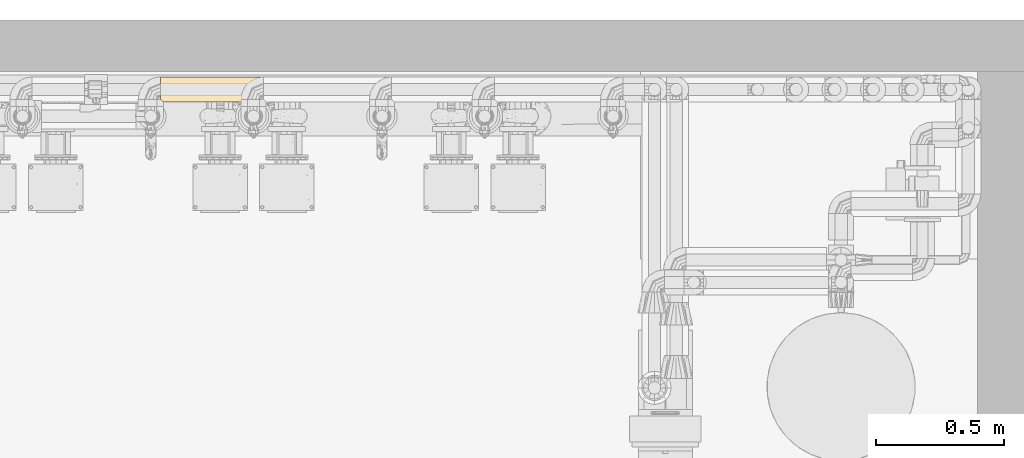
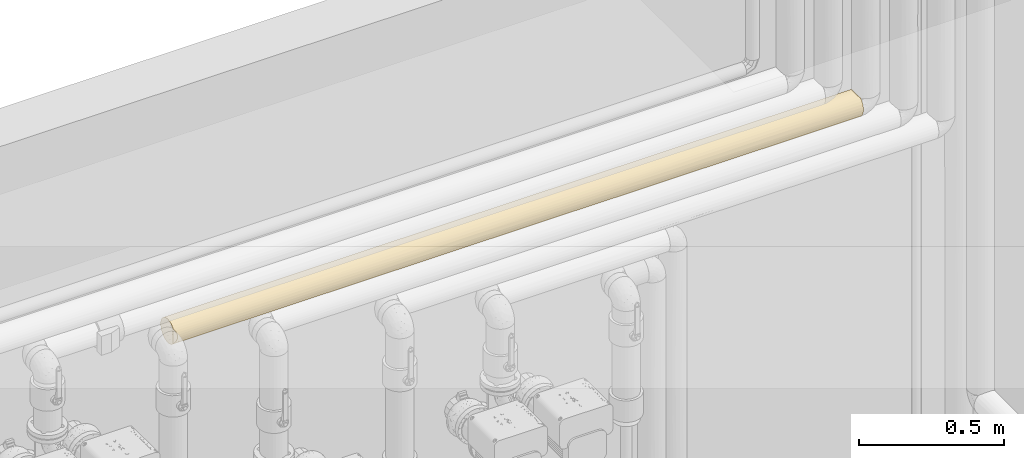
# One storey, part 5 of 94: 1 covering.
"""IFC2X3 building model written with IfcOpenShell, lengths in millimetres."""

from ifc_helpers import new_model, entity, si_unit, converted_unit, derived_unit, direction, frame, origin, place, context, subcontext, project, spatial, faceted_brep, material, element, save


model = new_model("IFC2X3")

# Units and contexts
model_context = context("Model", 3, precision=0.01, world=origin(), true_north=direction((6.123031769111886e-17, 1.0)))
body_context = subcontext(model_context, "Body", "Model", "MODEL_VIEW")
ifc_project = project(units=[si_unit("LENGTHUNIT", "METRE", prefix="MILLI"), si_unit("AREAUNIT", "SQUARE_METRE"), si_unit("VOLUMEUNIT", "CUBIC_METRE"), converted_unit("PLANEANGLEUNIT", "DEGREE", entity("IfcRatioMeasure", 0.017453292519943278), si_unit("PLANEANGLEUNIT", "RADIAN"), dimensions=[0, 0, 0, 0, 0, 0, 0]), si_unit("MASSUNIT", "GRAM", prefix="KILO"), derived_unit("MASSDENSITYUNIT", [(si_unit("MASSUNIT", "GRAM", prefix="KILO"), 1), (si_unit("LENGTHUNIT", "METRE"), -3)]), derived_unit("IONCONCENTRATIONUNIT", [(si_unit("MASSUNIT", "GRAM", prefix="KILO"), 1), (si_unit("LENGTHUNIT", "METRE"), -3)]), derived_unit("MOMENTOFINERTIAUNIT", [(si_unit("LENGTHUNIT", "METRE"), 4)]), si_unit("TIMEUNIT", "SECOND"), si_unit("FREQUENCYUNIT", "HERTZ"), si_unit("THERMODYNAMICTEMPERATUREUNIT", "DEGREE_CELSIUS"), derived_unit("THERMALTRANSMITTANCEUNIT", [(si_unit("MASSUNIT", "GRAM", prefix="KILO"), 1), (si_unit("THERMODYNAMICTEMPERATUREUNIT", "KELVIN"), -1), (si_unit("TIMEUNIT", "SECOND"), -3)]), derived_unit("THERMALCONDUCTANCEUNIT", [(si_unit("MASSUNIT", "GRAM", prefix="KILO"), 1), (si_unit("THERMODYNAMICTEMPERATUREUNIT", "KELVIN"), -1), (si_unit("TIMEUNIT", "SECOND"), -3), (si_unit("LENGTHUNIT", "METRE"), 1)]), derived_unit("VOLUMETRICFLOWRATEUNIT", [(si_unit("LENGTHUNIT", "METRE"), 3), (si_unit("TIMEUNIT", "SECOND"), -1)]), derived_unit("MASSFLOWRATEUNIT", [(si_unit("MASSUNIT", "GRAM", prefix="KILO"), 1), (si_unit("TIMEUNIT", "SECOND"), -1)]), derived_unit("ROTATIONALFREQUENCYUNIT", [(si_unit("TIMEUNIT", "SECOND"), -1)]), si_unit("ELECTRICCURRENTUNIT", "AMPERE"), si_unit("ELECTRICVOLTAGEUNIT", "VOLT"), si_unit("POWERUNIT", "WATT"), si_unit("FORCEUNIT", "NEWTON", prefix="KILO"), si_unit("ILLUMINANCEUNIT", "LUX"), si_unit("LUMINOUSFLUXUNIT", "LUMEN"), si_unit("LUMINOUSINTENSITYUNIT", "CANDELA"), derived_unit("USERDEFINED", [(si_unit("MASSUNIT", "GRAM", prefix="KILO"), -1), (si_unit("LENGTHUNIT", "METRE"), -2), (si_unit("TIMEUNIT", "SECOND"), 3), (si_unit("LUMINOUSFLUXUNIT", "LUMEN"), 1)]), derived_unit("USERDEFINED", [(si_unit("MASSUNIT", "GRAM", prefix="KILO"), 1), (si_unit("TIMEUNIT", "SECOND"), -3), (si_unit("LENGTHUNIT", "METRE"), 3), (si_unit("ELECTRICCURRENTUNIT", "AMPERE"), -2)]), derived_unit("SOUNDPOWERUNIT", [(si_unit("MASSUNIT", "GRAM", prefix="KILO"), 1), (si_unit("TIMEUNIT", "SECOND"), -3), (si_unit("LENGTHUNIT", "METRE"), 2)]), derived_unit("SOUNDPRESSUREUNIT", [(si_unit("MASSUNIT", "GRAM", prefix="KILO"), 1), (si_unit("LENGTHUNIT", "METRE"), -1), (si_unit("TIMEUNIT", "SECOND"), -2)]), derived_unit("LINEARVELOCITYUNIT", [(si_unit("LENGTHUNIT", "METRE"), 1), (si_unit("TIMEUNIT", "SECOND"), -1)]), si_unit("PRESSUREUNIT", "PASCAL"), derived_unit("USERDEFINED", [(si_unit("MASSUNIT", "GRAM", prefix="KILO"), 1), (si_unit("LENGTHUNIT", "METRE"), -2), (si_unit("TIMEUNIT", "SECOND"), -2)]), derived_unit("LINEARFORCEUNIT", [(si_unit("MASSUNIT", "GRAM", prefix="KILO"), 1), (si_unit("TIMEUNIT", "SECOND"), -2)]), derived_unit("PLANARFORCEUNIT", [(si_unit("MASSUNIT", "GRAM", prefix="KILO"), 1), (si_unit("LENGTHUNIT", "METRE"), -1), (si_unit("TIMEUNIT", "SECOND"), -2)]), derived_unit("SPECIFICHEATCAPACITYUNIT", [(si_unit("THERMODYNAMICTEMPERATUREUNIT", "KELVIN"), -1), (si_unit("LENGTHUNIT", "METRE"), 2), (si_unit("TIMEUNIT", "SECOND"), -2)]), derived_unit("HEATINGVALUEUNIT", [(si_unit("LENGTHUNIT", "METRE"), 2), (si_unit("TIMEUNIT", "SECOND"), -2)]), derived_unit("VAPORPERMEABILITYUNIT", [(si_unit("LENGTHUNIT", "METRE"), -1), (si_unit("TIMEUNIT", "SECOND"), 1)]), derived_unit("DYNAMICVISCOSITYUNIT", [(si_unit("MASSUNIT", "GRAM", prefix="KILO"), 1), (si_unit("TIMEUNIT", "SECOND"), -1), (si_unit("LENGTHUNIT", "METRE"), -1)]), derived_unit("THERMALEXPANSIONCOEFFICIENTUNIT", [(si_unit("THERMODYNAMICTEMPERATUREUNIT", "KELVIN"), -1)]), derived_unit("MODULUSOFELASTICITYUNIT", [(si_unit("MASSUNIT", "GRAM", prefix="KILO"), 1), (si_unit("LENGTHUNIT", "METRE"), -1), (si_unit("TIMEUNIT", "SECOND"), -2)]), derived_unit("ISOTHERMALMOISTURECAPACITYUNIT", [(si_unit("LENGTHUNIT", "METRE"), 3), (si_unit("MASSUNIT", "GRAM", prefix="KILO"), -1)]), derived_unit("MOISTUREDIFFUSIVITYUNIT", [(si_unit("TIMEUNIT", "SECOND"), -1), (si_unit("LENGTHUNIT", "METRE"), 2)])], contexts=[model_context])

# Site, building, storey
site_placement = place(None, origin())
site = spatial("IfcSite", under=ifc_project, at=site_placement, Name="Default", CompositionType="ELEMENT")
building_placement = place(site_placement, origin())
building = spatial("IfcBuilding", under=site, at=building_placement, CompositionType="ELEMENT")
storey_placement = place(building_placement, origin())
storey = spatial("IfcBuildingStorey", under=building, at=storey_placement, Name="Niveau 0", CompositionType="ELEMENT", Elevation=0.0)

# Covering
ifc_material = material(Name="Isolation - Laine minérale")
covering_placement = place(storey_placement, frame((-8935.741137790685, 9976.120352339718, 2700.725272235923)))
element("IfcCovering", 1, at=covering_placement, inside=storey, material=ifc_material, Name="Isolation des canalisations:Laine minérale", ObjectType="Isolation des canalisations:Laine minérale", PredefinedType="INSULATION", context=body_context, shape_type="Brep", body=[
    faceted_brep([(1.5952722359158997, 20.474956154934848, -89.43799982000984), (1.5952722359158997, 12.7252722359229, -81.86619226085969), (1.5952722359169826, 12.7252722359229, -19.58435221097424), (1.5952722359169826, 20.474956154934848, -12.012544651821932), (1.5952722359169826, 29.696487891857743, -6.32316497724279), (1.5952722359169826, 39.9404983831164, -2.7935963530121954), (1.5952722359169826, 50.72527223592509, -1.5952722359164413), (1.5952722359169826, 63.44105192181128, -3.269336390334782), (1.5952722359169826, 75.29027223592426, -8.17744414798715), (1.5952722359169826, 85.46542839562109, -15.985116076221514), (1.5952722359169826, 93.27310032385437, -26.160272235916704), (1.5952722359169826, 98.18120808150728, -38.00949255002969), (1.5952722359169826, 99.85527223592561, -50.72527223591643), (1.5952722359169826, 98.18120808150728, -63.44105192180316), (1.5952722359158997, 93.27310032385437, -75.29027223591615), (1.5952722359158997, 85.46542839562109, -85.46542839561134), (1.5952722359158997, 75.29027223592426, -93.2731003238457), (1.5952722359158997, 63.44105192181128, -98.18120808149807), (1.5952722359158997, 50.72527223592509, -99.85527223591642), (1.5952722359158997, 39.9404983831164, -98.65694811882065), (1.5952722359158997, 29.696487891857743, -95.12737949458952), (2738.568824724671, 2.7935963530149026, -39.94049838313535), (2738.568824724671, 1.5952722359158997, -50.725272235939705), (2738.568824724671, 3.26933639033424, -63.44105192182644), (2738.568824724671, 8.17744414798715, -75.29027223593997), (2738.568824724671, 15.98511607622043, -85.46542839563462), (2738.568824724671, 26.160272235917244, -93.27310032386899), (2738.568824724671, 38.00949255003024, -98.18120808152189), (2738.568824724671, 50.72527223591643, -99.8552722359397), (2738.568824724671, 63.44105192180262, -98.18120808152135), (2738.568824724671, 75.29027223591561, -93.27310032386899), (2738.568824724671, 85.46542839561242, -85.46542839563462), (2738.568824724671, 93.2731003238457, -75.29027223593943), (2738.568824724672, 98.18120808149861, -63.44105192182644), (2738.568824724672, 99.85527223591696, -50.725272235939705), (2738.568824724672, 98.65694811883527, -39.94049838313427), (2738.568824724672, 95.12737949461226, -29.696487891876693), (2738.568824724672, 89.43799982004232, -20.474956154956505), (2738.568824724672, 81.86619226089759, -12.725272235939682), (2738.568824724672, 19.584352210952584, -12.725272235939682), (2738.568824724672, 12.012544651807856, -20.474956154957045), (2738.568824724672, 6.3231649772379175, -29.69648789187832), (2449.2185860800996, 96.11547365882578, -69.52650929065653), (2448.2289001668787, 99.1303001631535, -59.13420625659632), (272.6511420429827, 96.115473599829, -69.52650943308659), (2337.232544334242, 89.70272181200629, -80.63372128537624), (2103.87532670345, 96.11547364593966, -69.52650932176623), (2254.8123188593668, 69.52650919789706, -96.11547369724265), (2157.153779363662, 98.94398934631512, -60.143988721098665), (2249.0821668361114, 99.85527223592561, -50.72527223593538), (583.0103230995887, 60.14398862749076, -98.9439893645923), (491.0817534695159, 50.72527223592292, -99.85527223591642), (291.9351992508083, 59.13420623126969, -99.1303001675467), (283.4446282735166, 99.05124511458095, -59.577235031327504), (584.6749647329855, 99.02687589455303, -59.709257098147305), (937.0309494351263, 62.91400262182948, -98.31930286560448), (980.5686006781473, 50.72527223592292, -99.85527223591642), (1491.9934035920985, 97.7460238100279, -64.96626312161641), (1320.0954497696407, 99.85527223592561, -50.7252722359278), (1370.0692381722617, 99.85527223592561, -50.7252722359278), (1759.5955089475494, 99.85527223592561, -50.725272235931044), (1941.969921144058, 90.03447239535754, -80.19633741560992), (335.08870955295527, 89.70272176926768, -80.63372134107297), (402.93155628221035, 80.63372117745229, -89.7027218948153), (2102.905535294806, 60.360580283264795, -98.90117636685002), (2422.553537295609, 60.25221646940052, -98.92272272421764), (1315.6507202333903, 70.34281176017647, -95.76868510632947), (1241.8953800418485, 60.43410755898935, -98.88641234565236), (290.9455130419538, 69.52650923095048, -96.11547368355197), (441.09533141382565, 99.85527223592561, -50.725272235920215), (1462.6208848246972, 83.01175494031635, -87.75687947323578), (1036.2323884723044, 79.66595093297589, -90.42658224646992), (2405.07539044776, 80.6337212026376, -89.702721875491), (636.2887754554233, 69.52650920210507, -96.11547369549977), (602.8173026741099, 96.11547354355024, -69.52650956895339), (865.1199322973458, 97.98339745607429, -64.1575654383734), (729.1335266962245, 86.99287982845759, -83.86765506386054), (716.2654039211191, 78.79427208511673, -91.04757558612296), (1413.5613877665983, 89.68738741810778, -80.65369485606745), (1681.2640510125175, 87.48485854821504, -83.32112648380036), (2151.474573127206, 77.36084045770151, -92.00848196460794), (2249.082343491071, 50.72527223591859, -99.85527223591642), (1759.5954962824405, 50.725272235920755, -99.85527223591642), (1784.5036156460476, 66.727044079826, -97.17632386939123), (1897.8737558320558, 80.63372113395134, -89.70272192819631), (886.321938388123, 93.81150821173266, -74.33317704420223), (1123.1783446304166, 89.70272171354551, -80.6337214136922), (912.0126759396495, 72.08258812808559, -94.9702940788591), (1600.325524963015, 74.92534877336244, -93.48171263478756), (1142.7867519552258, 94.41597595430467, -73.19479178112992), (1601.028814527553, 93.81671644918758, -74.32366912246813), (1803.1331566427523, 98.31930284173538, -62.914002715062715), (1845.7137951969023, 95.34620026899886, -71.28566331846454), (1174.662173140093, 97.71329315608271, -65.07388854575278), (880.5953905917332, 99.85527223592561, -50.72527223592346), (980.5590121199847, 99.85527223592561, -50.72527223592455), (1370.082048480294, 50.725272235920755, -99.85527223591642), (1557.711298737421, 59.40840300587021, -99.08186578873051), (491.0771421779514, 99.85527223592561, -50.725272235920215), (2337.232543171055, 11.747822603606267, -80.633721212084), (2405.0753893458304, 20.816823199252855, -89.70272182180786), (1513.1300192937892, 2.500289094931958, -60.11185313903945), (1454.7539238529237, 5.434782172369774, -69.7654510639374), (1803.1331521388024, 3.1312416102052, -62.914002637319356), (349.1927971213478, 2.701673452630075, -61.093052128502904), (502.2122398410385, 1.5952722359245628, -50.725272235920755), (12.725272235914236, 1.5952722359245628, -50.72527223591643), (2103.875325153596, 5.3350707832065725, -69.52650921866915), (2157.1537764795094, 2.5065551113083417, -60.14398864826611), (2249.0818571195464, 1.5952722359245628, -50.72527223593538), (2448.2288988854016, 2.3202443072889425, -59.13420624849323), (2149.3217398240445, 41.293803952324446, -98.94149674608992), (2443.8225810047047, 42.12413225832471, -99.09651670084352), (2449.218585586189, 5.335070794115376, -69.5265092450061), (1093.3240505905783, 31.228398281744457, -95.82104594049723), (1222.4815188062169, 23.972093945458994, -91.93236326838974), (922.6606416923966, 24.75784152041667, -92.43197963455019), (372.8840653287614, 16.39074909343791, -85.86637951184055), (293.6935360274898, 24.928477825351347, -92.53773805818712), (621.6573522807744, 24.92839652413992, -92.53768789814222), (12.003444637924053, 2.3170998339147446, -59.116085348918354), (802.2732796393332, 37.30077679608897, -97.98561313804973), (372.88541658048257, 34.720895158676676, -97.17542631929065), (537.0502443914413, 11.046301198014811, -79.69657109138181), (257.5332226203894, 10.290426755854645, -78.63190533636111), (6.355463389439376, 7.965081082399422, -74.91872078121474), (475.0645165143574, 6.14323949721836, -71.3698661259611), (9.859172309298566, 4.461372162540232, -67.26033951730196), (641.1809510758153, 2.398563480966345, -59.57321668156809), (698.4412094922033, 16.436613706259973, -85.91113297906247), (1022.6503442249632, 17.09045450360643, -86.53666617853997), (883.7993463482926, 10.52555265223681, -78.96955387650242), (2512.6403733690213, 31.924035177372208, -96.11547365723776), (880.569178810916, 3.809630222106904, -65.30880522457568), (1813.4616304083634, 20.81682314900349, -89.70272178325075), (2109.2685099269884, 23.260433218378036, -91.46149098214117), (1932.348093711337, 11.538274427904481, -80.35863355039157), (1538.1428379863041, 25.37734998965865, -92.8113713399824), (1895.2035288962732, 34.28961424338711, -97.02458158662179), (2218.3920569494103, 31.924035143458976, -96.11547364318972), (1175.3253168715, 39.68914916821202, -98.59970056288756), (1564.8387811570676, 35.218904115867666, -97.3440393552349), (1499.1069345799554, 13.217628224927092, -82.45748836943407), (1375.647048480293, 1.5952722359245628, -50.7252722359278), (1759.5948895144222, 1.5952722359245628, -50.725272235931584), (1198.4361139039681, 11.149706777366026, -79.83766682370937), (1132.4861206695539, 5.965759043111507, -70.98219398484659), (991.6992074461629, 1.5952722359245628, -50.72527223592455), (1821.6890348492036, 6.622160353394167, -72.37411567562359), (1213.4929278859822, 2.761443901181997, -61.366140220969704), (2367.2800324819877, 15.584164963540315, -16.3907490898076), (2390.9713005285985, 40.357492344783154, -2.7016734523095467), (2730.304924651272, 34.190204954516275, -4.461372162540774), (2728.160652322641, 42.33445912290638, -2.3170998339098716), (372.8854156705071, 34.72089518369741, -4.275118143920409), (289.5407304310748, 24.92847809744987, -8.912806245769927), (621.6573510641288, 24.92839655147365, -8.912856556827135), (349.1927969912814, 2.7016734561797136, -40.35749232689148), (9.859172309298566, 4.461372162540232, -34.19020495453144), (12.003444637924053, 2.3170998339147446, -42.33445912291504), (746.955254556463, 2.8295993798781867, -39.781716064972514), (2733.8086335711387, 26.531823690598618, -7.9650810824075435), (2265.09958156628, 30.08067835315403, -6.143239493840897), (938.2182634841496, 18.562002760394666, -13.586599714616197), (670.1904798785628, 15.13440866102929, -16.857185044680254), (883.799345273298, 10.525552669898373, -22.48099057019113), (2450.6233667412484, 8.912806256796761, -24.928478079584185), (2118.506746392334, 8.912856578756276, -24.928396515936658), (2367.278681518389, 4.27511815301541, -34.72089515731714), (2057.2128083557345, 15.25237782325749, -16.733645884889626), (1815.6286754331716, 10.991183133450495, -21.829614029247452), (475.0645161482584, 6.143239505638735, -30.08067832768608), (2481.571443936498, 22.818066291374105, -10.290822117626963), (2201.142658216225, 21.743369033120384, -11.05404605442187), (1993.2088433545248, 39.78171609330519, -2.8295993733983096), (2237.95105930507, 50.72527223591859, -1.5952722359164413), (1748.4670978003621, 50.72527223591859, -1.5952722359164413), (372.88406484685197, 16.39074910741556, -15.584164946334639), (980.5669991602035, 50.725272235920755, -1.5952722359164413), (491.079233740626, 50.72527223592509, -1.5952722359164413), (802.2732776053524, 37.30077683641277, -3.4649313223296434), (1937.8908190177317, 3.4649313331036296, -37.30077679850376), (1567.6212817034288, 2.841323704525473, -39.73052926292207), (2727.438824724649, 50.72527223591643, -1.5952722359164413), (482.01931858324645, 10.83122990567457, -22.05085355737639), (6.355463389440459, 7.965081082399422, -26.53182369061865), (1500.9993986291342, 9.659557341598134, -23.755586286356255), (1594.529855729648, 16.776894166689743, -15.210986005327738), (1260.6732951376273, 14.830829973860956, -17.179096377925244), (1172.542815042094, 39.73052929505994, -2.8413236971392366), (1364.518950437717, 50.725272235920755, -1.5952722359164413), (1856.3647529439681, 22.480990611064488, -10.52555264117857), (1704.8224881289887, 5.8414464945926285, -30.74530509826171), (1432.5522777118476, 5.412524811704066, -31.73812340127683), (1190.5422345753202, 8.510895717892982, -25.591563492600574), (940.0359222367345, 27.830130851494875, -7.256094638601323), (1556.491282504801, 35.408903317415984, -4.043736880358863), (1303.738334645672, 31.83986535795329, -5.370026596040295), (1553.4077431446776, 25.32904269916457, -8.668305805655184), (1239.1646993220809, 23.75558635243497, -9.659557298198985), (1183.672815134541, 4.043736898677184, -35.408903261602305), (907.3558812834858, 5.529262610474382, -31.461897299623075), (1832.8082160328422, 31.46189734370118, -5.529262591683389), (2367.280032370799, 85.86637952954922, -16.390749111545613), (2203.1138535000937, 79.69657111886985, -11.046301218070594), (2482.630874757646, 78.63190535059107, -10.290426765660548), (2390.9713001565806, 61.09305214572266, -2.701673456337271), (2728.1606523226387, 59.1160853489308, -2.317099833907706), (2446.470561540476, 92.53773807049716, -24.92847784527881), (2367.27868148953, 97.17542632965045, -34.720895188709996), (2118.5067461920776, 92.53768792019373, -24.928396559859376), (1937.8908201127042, 97.98561315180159, -37.30077684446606), (2265.0995809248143, 71.36986615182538, -6.1432395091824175), (2730.3049246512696, 67.26033951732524, -4.461372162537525), (2733.8086335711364, 74.91872078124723, -7.965081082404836), (290.9455118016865, 69.52650927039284, -5.3350708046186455), (402.93155412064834, 80.63372124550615, -11.74782262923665), (590.8423563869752, 98.94149675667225, -41.29380400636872), (296.3415157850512, 99.09651670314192, -42.124132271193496), (227.52372312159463, 96.11547366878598, -31.924035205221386), (1227.0340787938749, 60.111853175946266, -2.50028910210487), (1285.410174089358, 69.7654510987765, -5.434782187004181), (937.030946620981, 62.91400270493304, -3.1312416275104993), (926.7024642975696, 89.70272184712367, -20.816823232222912), (1202.0212591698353, 92.81137134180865, -25.3773499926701), (844.9605671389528, 97.02458161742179, -34.289614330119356), (1859.5949189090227, 65.30880526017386, -3.8096302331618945), (1856.36475170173, 78.96955391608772, -10.525552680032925), (335.08870780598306, 89.70272184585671, -20.81682323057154), (1646.840044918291, 95.82104595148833, -31.22839830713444), (1517.6825783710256, 91.93236328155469, -23.97209396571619), (1817.5034560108, 92.43197970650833, -24.757841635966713), (2098.9831464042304, 59.57321670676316, -2.3985634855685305), (2041.7228888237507, 85.91113300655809, -16.436613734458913), (1717.5137545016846, 86.53666622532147, -17.090454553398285), (291.93519832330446, 59.134206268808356, -2.3202443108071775), (583.0103213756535, 60.14398867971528, -2.506555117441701), (630.8955860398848, 91.46149104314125, -23.260433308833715), (807.8160032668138, 80.35863361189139, -11.53827447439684), (636.2887725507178, 69.5265092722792, -5.335070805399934), (521.7720391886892, 96.11547366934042, -31.92403520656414), (1564.8387825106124, 98.59970057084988, -39.68914920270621), (1175.3253147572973, 97.34403936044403, -35.2189041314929), (1241.0571649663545, 82.45748848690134, -13.21762832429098), (1541.72798449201, 79.83766687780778, -11.149706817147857), (1607.6779771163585, 70.98219402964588, -5.965759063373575), (918.4750631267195, 72.3741157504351, -6.622160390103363), (1526.671169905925, 61.36614025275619, -2.7614439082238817)], [[[0, 1, 2, 3, 4, 5, 6, 7, 8, 9, 10, 11, 12, 13, 14, 15, 16, 17, 18, 19, 20]], [[21, 22, 23, 24, 25, 26, 27, 28, 29, 30, 31, 32, 33, 34, 35, 36, 37, 38, 39, 40, 41]], [[42, 43, 33]], [[44, 14, 13]], [[33, 32, 42]], [[45, 46, 42]], [[30, 29, 47]], [[48, 49, 43]], [[50, 51, 52]], [[44, 53, 54]], [[50, 55, 56]], [[57, 58, 59, 60]], [[45, 61, 46]], [[45, 32, 31]], [[15, 62, 63]], [[64, 47, 65]], [[55, 66, 67]], [[17, 16, 68]], [[69, 53, 12]], [[29, 65, 47]], [[70, 66, 71]], [[31, 72, 45]], [[73, 68, 63]], [[63, 16, 15]], [[74, 54, 75]], [[52, 17, 68]], [[63, 76, 77]], [[78, 79, 70]], [[80, 45, 72]], [[28, 81, 65]], [[64, 82, 83]], [[31, 30, 72]], [[33, 43, 34]], [[61, 45, 84]], [[62, 15, 14]], [[17, 52, 18]], [[63, 62, 76]], [[63, 77, 73]], [[44, 54, 74]], [[84, 80, 83]], [[30, 47, 72]], [[80, 72, 47]], [[44, 62, 14]], [[74, 85, 76]], [[74, 76, 62]], [[76, 86, 71]], [[70, 71, 86]], [[66, 55, 87]], [[70, 86, 78]], [[84, 83, 88]], [[78, 89, 90]], [[48, 91, 60]], [[75, 85, 74]], [[60, 91, 57]], [[45, 42, 32]], [[48, 43, 42]], [[63, 68, 16]], [[50, 52, 68]], [[79, 84, 70]], [[70, 88, 66]], [[48, 42, 46]], [[34, 43, 49]], [[50, 68, 73]], [[18, 52, 51]], [[91, 48, 46]], [[60, 49, 48]], [[46, 92, 91]], [[93, 94, 95, 58]], [[91, 92, 57]], [[55, 50, 73]], [[56, 51, 50]], [[87, 55, 73]], [[96, 67, 97]], [[97, 82, 96]], [[55, 67, 56]], [[92, 61, 90]], [[53, 44, 13]], [[62, 44, 74]], [[12, 53, 13]], [[53, 69, 54]], [[54, 69, 98, 94]], [[75, 94, 93]], [[94, 75, 54]], [[85, 89, 86]], [[89, 75, 93]], [[76, 85, 86]], [[75, 89, 85]], [[89, 93, 57]], [[28, 65, 29]], [[64, 65, 81]], [[82, 64, 81]], [[83, 47, 64]], [[83, 80, 47]], [[45, 80, 84]], [[76, 71, 77]], [[87, 77, 71]], [[89, 78, 86]], [[79, 90, 61]], [[90, 79, 78]], [[84, 79, 61]], [[84, 88, 70]], [[83, 66, 88]], [[61, 92, 46]], [[57, 92, 90]], [[89, 57, 90]], [[58, 57, 93]], [[77, 87, 73]], [[66, 87, 71]], [[97, 66, 83]], [[56, 67, 96]], [[66, 97, 67]], [[82, 97, 83]], [[99, 100, 25]], [[24, 99, 25]], [[101, 102, 103]], [[104, 105, 106]], [[107, 108, 103]], [[22, 109, 110]], [[111, 81, 112]], [[23, 113, 24]], [[114, 115, 116]], [[117, 118, 119]], [[106, 120, 104]], [[26, 25, 100]], [[121, 122, 51]], [[19, 18, 51]], [[113, 110, 108]], [[119, 122, 121]], [[123, 124, 117]], [[125, 126, 127]], [[128, 105, 104]], [[104, 127, 126]], [[24, 113, 99]], [[118, 122, 119]], [[20, 19, 122]], [[0, 117, 1]], [[129, 123, 117]], [[20, 118, 0]], [[129, 130, 131]], [[27, 26, 132]], [[133, 126, 131]], [[134, 135, 136]], [[134, 137, 138]], [[27, 132, 112]], [[129, 117, 119]], [[124, 125, 1]], [[19, 51, 122]], [[121, 51, 56]], [[136, 99, 107]], [[113, 108, 107]], [[100, 135, 139]], [[140, 56, 96]], [[27, 112, 28]], [[130, 116, 115]], [[141, 96, 82]], [[134, 136, 142]], [[140, 121, 56]], [[82, 111, 138]], [[115, 114, 137]], [[99, 136, 135]], [[132, 100, 139]], [[143, 101, 144]], [[142, 145, 130]], [[96, 141, 140]], [[141, 137, 114]], [[131, 145, 146]], [[128, 147, 105]], [[110, 113, 23]], [[99, 113, 107]], [[148, 107, 103]], [[136, 148, 142]], [[130, 145, 131]], [[137, 142, 115]], [[22, 110, 23]], [[110, 109, 108]], [[109, 144, 108]], [[103, 108, 144]], [[133, 149, 147]], [[107, 148, 136]], [[149, 102, 101]], [[0, 118, 117]], [[20, 122, 118]], [[103, 102, 148]], [[142, 148, 102]], [[116, 130, 129]], [[123, 131, 126]], [[116, 129, 119]], [[142, 130, 115]], [[142, 102, 145]], [[102, 149, 146]], [[119, 121, 116]], [[114, 121, 140]], [[121, 114, 116]], [[141, 114, 140]], [[131, 123, 129]], [[124, 126, 125]], [[117, 124, 1]], [[126, 124, 123]], [[127, 104, 120]], [[128, 126, 133]], [[126, 128, 104]], [[147, 128, 133]], [[100, 132, 26]], [[139, 111, 112]], [[139, 112, 132]], [[28, 112, 81]], [[138, 111, 139]], [[82, 81, 111]], [[138, 139, 135]], [[82, 138, 141]], [[138, 137, 141]], [[142, 137, 134]], [[135, 100, 99]], [[138, 135, 134]], [[147, 149, 143]], [[146, 149, 133]], [[131, 146, 133]], [[102, 146, 145]], [[144, 101, 103]], [[143, 149, 101]], [[39, 150, 40]], [[151, 152, 153]], [[154, 155, 156]], [[157, 158, 159]], [[160, 105, 147]], [[161, 152, 162]], [[163, 164, 165]], [[166, 167, 168]], [[40, 150, 166]], [[154, 5, 4]], [[157, 159, 106]], [[167, 169, 170]], [[157, 160, 171]], [[172, 39, 161]], [[172, 162, 173]], [[174, 175, 176]], [[155, 3, 177]], [[178, 179, 180]], [[162, 151, 174]], [[109, 181, 144]], [[144, 182, 143]], [[153, 183, 151]], [[106, 105, 157]], [[168, 21, 41]], [[171, 184, 185]], [[4, 155, 154]], [[109, 22, 21]], [[186, 170, 187]], [[2, 177, 3]], [[183, 175, 151]], [[186, 187, 188]], [[158, 171, 185]], [[179, 6, 5]], [[178, 189, 190]], [[41, 166, 168]], [[168, 181, 109]], [[154, 180, 179]], [[173, 191, 169]], [[184, 2, 185]], [[184, 165, 164]], [[168, 167, 181]], [[109, 21, 168]], [[154, 156, 180]], [[179, 5, 154]], [[192, 167, 170]], [[192, 193, 182]], [[186, 192, 170]], [[194, 186, 188]], [[195, 156, 163]], [[196, 189, 197]], [[163, 165, 188]], [[187, 198, 199]], [[143, 200, 147]], [[181, 182, 144]], [[201, 171, 160]], [[190, 196, 176]], [[180, 189, 178]], [[202, 162, 174]], [[192, 182, 181]], [[200, 143, 182]], [[189, 180, 195]], [[196, 190, 189]], [[147, 200, 160]], [[201, 160, 200]], [[176, 196, 174]], [[202, 174, 196]], [[167, 192, 181]], [[193, 192, 186]], [[169, 167, 150]], [[170, 169, 187]], [[198, 187, 191]], [[188, 187, 199]], [[163, 188, 199]], [[194, 200, 193]], [[195, 163, 199]], [[164, 156, 177]], [[173, 169, 150]], [[187, 169, 191]], [[202, 198, 191]], [[197, 198, 196]], [[150, 39, 172]], [[191, 173, 162]], [[162, 172, 161]], [[150, 172, 173]], [[195, 199, 197]], [[156, 195, 180]], [[188, 165, 194]], [[201, 194, 165]], [[194, 193, 186]], [[182, 193, 200]], [[156, 164, 163]], [[184, 164, 177]], [[184, 177, 2]], [[165, 184, 171]], [[40, 166, 41]], [[167, 166, 150]], [[3, 155, 4]], [[156, 155, 177]], [[160, 157, 105]], [[158, 157, 171]], [[174, 151, 175]], [[152, 151, 162]], [[195, 197, 189]], [[198, 197, 199]], [[194, 201, 200]], [[171, 201, 165]], [[198, 202, 196]], [[162, 202, 191]], [[203, 204, 205]], [[206, 183, 207]], [[208, 209, 210]], [[49, 211, 209]], [[37, 203, 38]], [[36, 208, 37]], [[212, 213, 214]], [[203, 208, 210]], [[206, 213, 212]], [[215, 8, 7]], [[8, 215, 216]], [[217, 98, 218]], [[10, 219, 11]], [[8, 216, 9]], [[220, 221, 222]], [[206, 175, 183]], [[223, 224, 225]], [[210, 209, 211]], [[226, 212, 227]], [[216, 228, 9]], [[229, 230, 231]], [[175, 206, 232]], [[233, 234, 227]], [[6, 179, 235]], [[215, 235, 236]], [[223, 237, 238]], [[36, 35, 209]], [[233, 204, 203]], [[239, 236, 222]], [[10, 9, 228]], [[35, 34, 49]], [[11, 219, 218]], [[233, 203, 210]], [[205, 214, 38]], [[35, 49, 209]], [[211, 49, 60]], [[238, 216, 239]], [[215, 236, 239]], [[228, 237, 240]], [[241, 60, 59]], [[11, 218, 12]], [[234, 231, 230]], [[242, 59, 58, 95]], [[223, 238, 243]], [[241, 211, 60]], [[95, 217, 225]], [[230, 229, 224]], [[216, 238, 237]], [[219, 228, 240]], [[190, 220, 178]], [[243, 244, 234]], [[59, 242, 241]], [[242, 224, 229]], [[227, 244, 245]], [[232, 176, 175]], [[235, 215, 7]], [[216, 215, 239]], [[246, 239, 222]], [[238, 246, 243]], [[234, 244, 227]], [[224, 243, 230]], [[6, 235, 7]], [[235, 179, 236]], [[179, 178, 236]], [[222, 236, 178]], [[226, 247, 176]], [[239, 246, 238]], [[247, 221, 220]], [[37, 208, 203]], [[36, 209, 208]], [[222, 221, 246]], [[243, 246, 221]], [[231, 234, 233]], [[204, 227, 212]], [[231, 233, 210]], [[243, 234, 230]], [[243, 221, 244]], [[221, 247, 245]], [[210, 211, 231]], [[229, 211, 241]], [[211, 229, 231]], [[242, 229, 241]], [[227, 204, 233]], [[205, 212, 214]], [[203, 205, 38]], [[212, 205, 204]], [[213, 206, 207]], [[232, 212, 226]], [[212, 232, 206]], [[176, 232, 226]], [[228, 219, 10]], [[240, 217, 218]], [[240, 218, 219]], [[218, 98, 69, 12]], [[225, 217, 240]], [[217, 95, 94, 98]], [[225, 240, 237]], [[95, 225, 242]], [[225, 224, 242]], [[243, 224, 223]], [[237, 228, 216]], [[225, 237, 223]], [[176, 247, 190]], [[245, 247, 226]], [[227, 245, 226]], [[221, 245, 244]], [[178, 220, 222]], [[190, 247, 220]], [[1, 125, 127, 120, 106, 159, 158, 185, 2]], [[183, 153, 152, 161, 39, 38, 214, 213, 207]]]),
])

save(model, "model.ifc")
